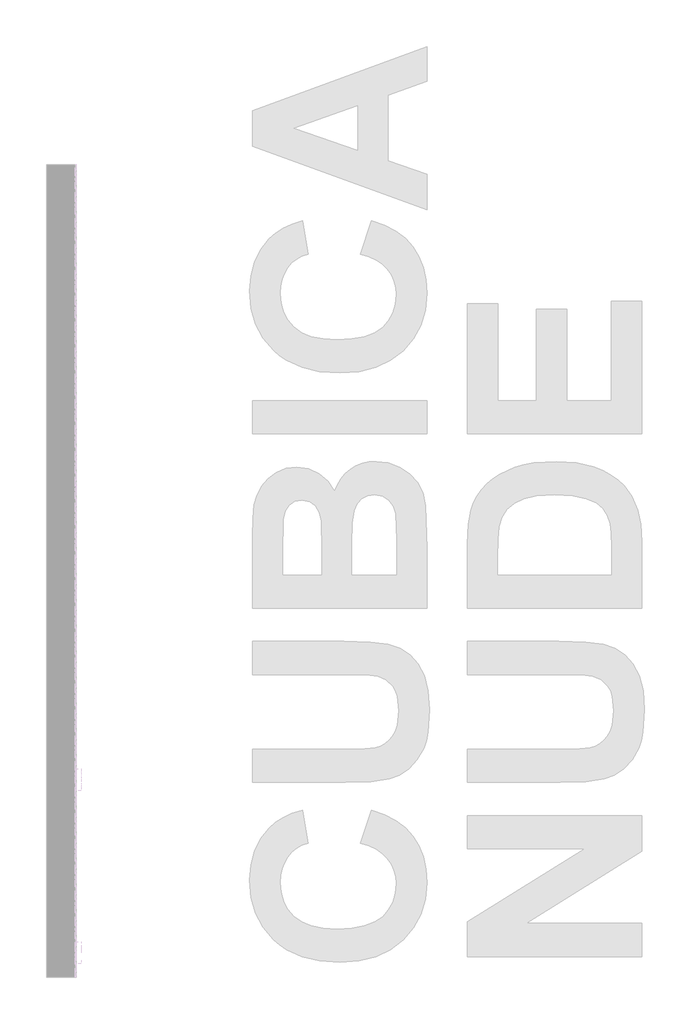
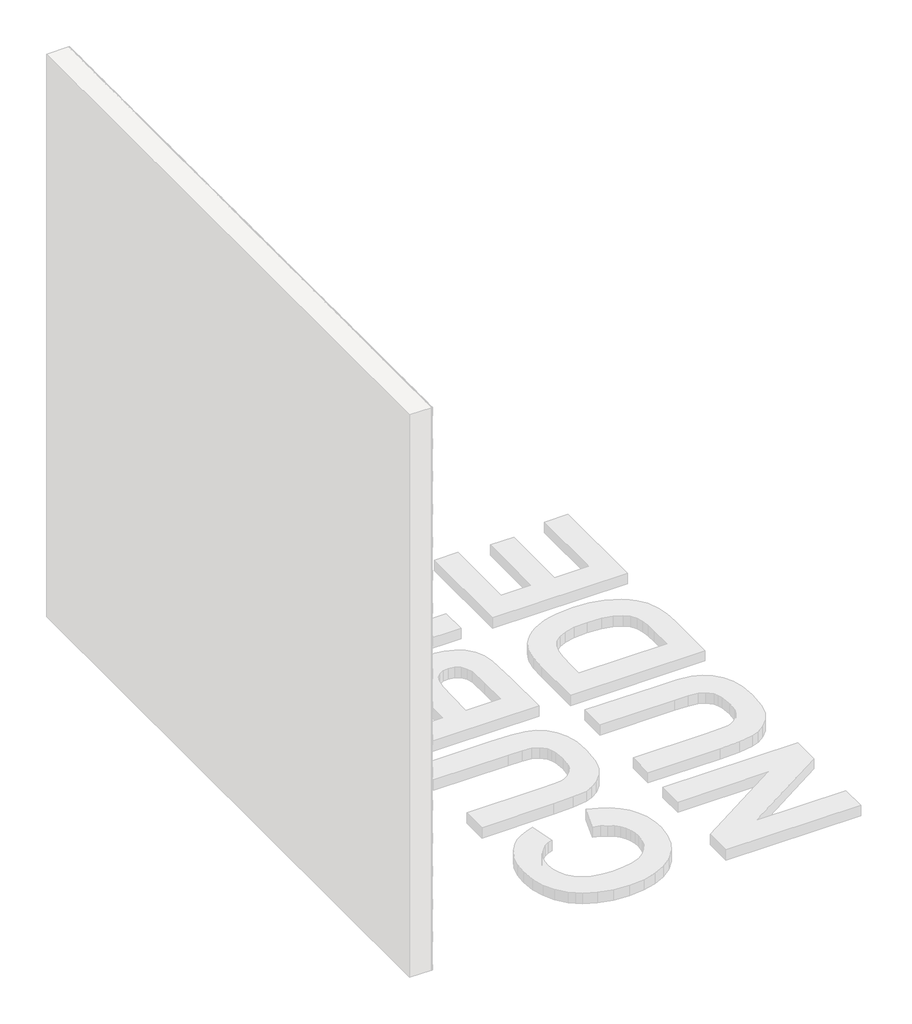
# One storey, part 69 of 121: 145 proxies.
"""IFC4 building model written with IfcOpenShell, lengths in millimetres."""

from ifc_helpers import new_model, si_unit, origin, place, context, project, spatial, transform, mapped, element, save
from components import generic_models_b2b2c5c1, generic_models_9bf73f6f, generic_models_5d175859

model = new_model("IFC4")

# Units and contexts
model_context = context("Model", 3, world=origin())
ifc_project = project(units=[si_unit("LENGTHUNIT", "METRE", prefix="MILLI")], contexts=[model_context])

# Site, building, storey
site = spatial("IfcSite", under=ifc_project)
building = spatial("IfcBuilding", under=site)
storey = spatial("IfcBuildingStorey", under=building, Name="PORTOBELLO - SHOWROOM", Elevation=0.0)

# Proxies
placement = place(None, origin())
generic_models_shape = generic_models_b2b2c5c1(model_context)
element("IfcBuildingElementProxy", 1, Name="PBSHOP - CUBICA NUDE 4,8X8,3 : CUBICA NUDE - POSIÇÃO 01", ObjectType="PBSHOP - CUBICA NUDE 4,8X8,3 : CUBICA NUDE - POSIÇÃO 01", at=placement, inside=storey, context=model_context, shape_type="MappedRepresentation", body=[
    mapped(generic_models_shape, transform((150369.5341846, 8940.0472844, 1775.984211), x_axis=(0.0, 1.0, 0.0), y_axis=(0.0, 0.0, 1.0), z_axis=(1.0, 0.0, 0.0))),
])
element("IfcBuildingElementProxy", 2, Name="PBSHOP - CUBICA NUDE 4,8X8,3 : CUBICA NUDE - POSIÇÃO 01", ObjectType="PBSHOP - CUBICA NUDE 4,8X8,3 : CUBICA NUDE - POSIÇÃO 01", at=placement, inside=storey, context=model_context, shape_type="MappedRepresentation", body=[
    mapped(generic_models_shape, transform((150369.5341846, 8077.0742266, 1854.9188494), x_axis=(0.0, 1.0, 0.0), y_axis=(0.0, 0.0, 1.0), z_axis=(1.0, 0.0, 0.0))),
])
element("IfcBuildingElementProxy", 3, Name="PBSHOP - CUBICA NUDE 4,8X8,3 : CUBICA NUDE - POSIÇÃO 01", ObjectType="PBSHOP - CUBICA NUDE 4,8X8,3 : CUBICA NUDE - POSIÇÃO 01", at=placement, inside=storey, context=model_context, shape_type="MappedRepresentation", body=[
    mapped(generic_models_shape, transform((150369.5341846, 8167.9134958, 1854.9188494), x_axis=(0.0, 1.0, 0.0), y_axis=(0.0, 0.0, 1.0), z_axis=(1.0, 0.0, 0.0))),
])
element("IfcBuildingElementProxy", 4, Name="PBSHOP - CUBICA NUDE 4,8X8,3 : CUBICA NUDE - POSIÇÃO 01", ObjectType="PBSHOP - CUBICA NUDE 4,8X8,3 : CUBICA NUDE - POSIÇÃO 01", at=placement, inside=storey, context=model_context, shape_type="MappedRepresentation", body=[
    mapped(generic_models_shape, transform((150369.5341846, 8258.7527651, 1854.9188494), x_axis=(0.0, 1.0, 0.0), y_axis=(0.0, 0.0, 1.0), z_axis=(1.0, 0.0, 0.0))),
])
element("IfcBuildingElementProxy", 5, Name="PBSHOP - CUBICA NUDE 4,8X8,3 : CUBICA NUDE - POSIÇÃO 01", ObjectType="PBSHOP - CUBICA NUDE 4,8X8,3 : CUBICA NUDE - POSIÇÃO 01", at=placement, inside=storey, context=model_context, shape_type="MappedRepresentation", body=[
    mapped(generic_models_shape, transform((150369.5341846, 8349.5920343, 1854.9188494), x_axis=(0.0, 1.0, 0.0), y_axis=(0.0, 0.0, 1.0), z_axis=(1.0, 0.0, 0.0))),
])
element("IfcBuildingElementProxy", 6, Name="PBSHOP - CUBICA NUDE 4,8X8,3 : CUBICA NUDE - POSIÇÃO 01", ObjectType="PBSHOP - CUBICA NUDE 4,8X8,3 : CUBICA NUDE - POSIÇÃO 01", at=placement, inside=storey, context=model_context, shape_type="MappedRepresentation", body=[
    mapped(generic_models_shape, transform((150369.5341846, 8440.4313036, 1854.9188494), x_axis=(0.0, 1.0, 0.0), y_axis=(0.0, 0.0, 1.0), z_axis=(1.0, 0.0, 0.0))),
])
element("IfcBuildingElementProxy", 7, Name="PBSHOP - CUBICA NUDE 4,8X8,3 : CUBICA NUDE - POSIÇÃO 01", ObjectType="PBSHOP - CUBICA NUDE 4,8X8,3 : CUBICA NUDE - POSIÇÃO 01", at=placement, inside=storey, context=model_context, shape_type="MappedRepresentation", body=[
    mapped(generic_models_shape, transform((150369.5341846, 8531.2705728, 1854.9188494), x_axis=(0.0, 1.0, 0.0), y_axis=(0.0, 0.0, 1.0), z_axis=(1.0, 0.0, 0.0))),
])
element("IfcBuildingElementProxy", 8, Name="PBSHOP - CUBICA NUDE 4,8X8,3 : CUBICA NUDE - POSIÇÃO 01", ObjectType="PBSHOP - CUBICA NUDE 4,8X8,3 : CUBICA NUDE - POSIÇÃO 01", at=placement, inside=storey, context=model_context, shape_type="MappedRepresentation", body=[
    mapped(generic_models_shape, transform((150369.5341846, 8622.109842, 1854.9188494), x_axis=(0.0, 1.0, 0.0), y_axis=(0.0, 0.0, 1.0), z_axis=(1.0, 0.0, 0.0))),
])
element("IfcBuildingElementProxy", 9, Name="PBSHOP - CUBICA NUDE 4,8X8,3 : CUBICA NUDE - POSIÇÃO 01", ObjectType="PBSHOP - CUBICA NUDE 4,8X8,3 : CUBICA NUDE - POSIÇÃO 01", at=placement, inside=storey, context=model_context, shape_type="MappedRepresentation", body=[
    mapped(generic_models_shape, transform((150369.5341846, 8712.9491113, 1854.9188494), x_axis=(0.0, 1.0, 0.0), y_axis=(0.0, 0.0, 1.0), z_axis=(1.0, 0.0, 0.0))),
])
element("IfcBuildingElementProxy", 10, Name="PBSHOP - CUBICA NUDE 4,8X8,3 : CUBICA NUDE - POSIÇÃO 01", ObjectType="PBSHOP - CUBICA NUDE 4,8X8,3 : CUBICA NUDE - POSIÇÃO 01", at=placement, inside=storey, context=model_context, shape_type="MappedRepresentation", body=[
    mapped(generic_models_shape, transform((150369.5341846, 8803.7883805, 1854.9188494), x_axis=(0.0, 1.0, 0.0), y_axis=(0.0, 0.0, 1.0), z_axis=(1.0, 0.0, 0.0))),
])
element("IfcBuildingElementProxy", 11, Name="PBSHOP - CUBICA NUDE 4,8X8,3 : CUBICA NUDE - POSIÇÃO 01", ObjectType="PBSHOP - CUBICA NUDE 4,8X8,3 : CUBICA NUDE - POSIÇÃO 01", at=placement, inside=storey, context=model_context, shape_type="MappedRepresentation", body=[
    mapped(generic_models_shape, transform((150369.5341846, 8894.6276498, 1854.9188494), x_axis=(0.0, 1.0, 0.0), y_axis=(0.0, 0.0, 1.0), z_axis=(1.0, 0.0, 0.0))),
])
element("IfcBuildingElementProxy", 12, Name="PBSHOP - CUBICA NUDE 4,8X8,3 : CUBICA NUDE - POSIÇÃO 01", ObjectType="PBSHOP - CUBICA NUDE 4,8X8,3 : CUBICA NUDE - POSIÇÃO 01", at=placement, inside=storey, context=model_context, shape_type="MappedRepresentation", body=[
    mapped(generic_models_shape, transform((150369.5341846, 8985.466919, 1854.9188494), x_axis=(0.0, 1.0, 0.0), y_axis=(0.0, 0.0, 1.0), z_axis=(1.0, 0.0, 0.0))),
])
element("IfcBuildingElementProxy", 13, Name="PBSHOP - CUBICA NUDE 4,8X8,3 : CUBICA NUDE - POSIÇÃO 01", ObjectType="PBSHOP - CUBICA NUDE 4,8X8,3 : CUBICA NUDE - POSIÇÃO 01", at=placement, inside=storey, context=model_context, shape_type="MappedRepresentation", body=[
    mapped(generic_models_shape, transform((150369.5341846, 8031.654592, 1933.8534878), x_axis=(0.0, 1.0, 0.0), y_axis=(0.0, 0.0, 1.0), z_axis=(1.0, 0.0, 0.0))),
])
element("IfcBuildingElementProxy", 14, Name="PBSHOP - CUBICA NUDE 4,8X8,3 : CUBICA NUDE - POSIÇÃO 01", ObjectType="PBSHOP - CUBICA NUDE 4,8X8,3 : CUBICA NUDE - POSIÇÃO 01", at=placement, inside=storey, context=model_context, shape_type="MappedRepresentation", body=[
    mapped(generic_models_shape, transform((150369.5341846, 8122.4938612, 1933.8534878), x_axis=(0.0, 1.0, 0.0), y_axis=(0.0, 0.0, 1.0), z_axis=(1.0, 0.0, 0.0))),
])
element("IfcBuildingElementProxy", 15, Name="PBSHOP - CUBICA NUDE 4,8X8,3 : CUBICA NUDE - POSIÇÃO 01", ObjectType="PBSHOP - CUBICA NUDE 4,8X8,3 : CUBICA NUDE - POSIÇÃO 01", at=placement, inside=storey, context=model_context, shape_type="MappedRepresentation", body=[
    mapped(generic_models_shape, transform((150369.5341846, 8213.3331304, 1933.8534878), x_axis=(0.0, 1.0, 0.0), y_axis=(0.0, 0.0, 1.0), z_axis=(1.0, 0.0, 0.0))),
])
element("IfcBuildingElementProxy", 16, Name="PBSHOP - CUBICA NUDE 4,8X8,3 : CUBICA NUDE - POSIÇÃO 01", ObjectType="PBSHOP - CUBICA NUDE 4,8X8,3 : CUBICA NUDE - POSIÇÃO 01", at=placement, inside=storey, context=model_context, shape_type="MappedRepresentation", body=[
    mapped(generic_models_shape, transform((150369.5341846, 8304.1723997, 1933.8534878), x_axis=(0.0, 1.0, 0.0), y_axis=(0.0, 0.0, 1.0), z_axis=(1.0, 0.0, 0.0))),
])
element("IfcBuildingElementProxy", 17, Name="PBSHOP - CUBICA NUDE 4,8X8,3 : CUBICA NUDE - POSIÇÃO 01", ObjectType="PBSHOP - CUBICA NUDE 4,8X8,3 : CUBICA NUDE - POSIÇÃO 01", at=placement, inside=storey, context=model_context, shape_type="MappedRepresentation", body=[
    mapped(generic_models_shape, transform((150369.5341846, 8395.0116689, 1933.8534878), x_axis=(0.0, 1.0, 0.0), y_axis=(0.0, 0.0, 1.0), z_axis=(1.0, 0.0, 0.0))),
])
element("IfcBuildingElementProxy", 18, Name="PBSHOP - CUBICA NUDE 4,8X8,3 : CUBICA NUDE - POSIÇÃO 01", ObjectType="PBSHOP - CUBICA NUDE 4,8X8,3 : CUBICA NUDE - POSIÇÃO 01", at=placement, inside=storey, context=model_context, shape_type="MappedRepresentation", body=[
    mapped(generic_models_shape, transform((150369.5341846, 8485.8509382, 1933.8534878), x_axis=(0.0, 1.0, 0.0), y_axis=(0.0, 0.0, 1.0), z_axis=(1.0, 0.0, 0.0))),
])
element("IfcBuildingElementProxy", 19, Name="PBSHOP - CUBICA NUDE 4,8X8,3 : CUBICA NUDE - POSIÇÃO 01", ObjectType="PBSHOP - CUBICA NUDE 4,8X8,3 : CUBICA NUDE - POSIÇÃO 01", at=placement, inside=storey, context=model_context, shape_type="MappedRepresentation", body=[
    mapped(generic_models_shape, transform((150369.5341846, 8576.6902074, 1933.8534878), x_axis=(0.0, 1.0, 0.0), y_axis=(0.0, 0.0, 1.0), z_axis=(1.0, 0.0, 0.0))),
])
element("IfcBuildingElementProxy", 20, Name="PBSHOP - CUBICA NUDE 4,8X8,3 : CUBICA NUDE - POSIÇÃO 01", ObjectType="PBSHOP - CUBICA NUDE 4,8X8,3 : CUBICA NUDE - POSIÇÃO 01", at=placement, inside=storey, context=model_context, shape_type="MappedRepresentation", body=[
    mapped(generic_models_shape, transform((150369.5341846, 8667.5294767, 1933.8534878), x_axis=(0.0, 1.0, 0.0), y_axis=(0.0, 0.0, 1.0), z_axis=(1.0, 0.0, 0.0))),
])
element("IfcBuildingElementProxy", 21, Name="PBSHOP - CUBICA NUDE 4,8X8,3 : CUBICA NUDE - POSIÇÃO 01", ObjectType="PBSHOP - CUBICA NUDE 4,8X8,3 : CUBICA NUDE - POSIÇÃO 01", at=placement, inside=storey, context=model_context, shape_type="MappedRepresentation", body=[
    mapped(generic_models_shape, transform((150369.5341846, 8758.3687459, 1933.8534878), x_axis=(0.0, 1.0, 0.0), y_axis=(0.0, 0.0, 1.0), z_axis=(1.0, 0.0, 0.0))),
])
element("IfcBuildingElementProxy", 22, Name="PBSHOP - CUBICA NUDE 4,8X8,3 : CUBICA NUDE - POSIÇÃO 01", ObjectType="PBSHOP - CUBICA NUDE 4,8X8,3 : CUBICA NUDE - POSIÇÃO 01", at=placement, inside=storey, context=model_context, shape_type="MappedRepresentation", body=[
    mapped(generic_models_shape, transform((150369.5341846, 8849.2080152, 1933.8534878), x_axis=(0.0, 1.0, 0.0), y_axis=(0.0, 0.0, 1.0), z_axis=(1.0, 0.0, 0.0))),
])
element("IfcBuildingElementProxy", 23, Name="PBSHOP - CUBICA NUDE 4,8X8,3 : CUBICA NUDE - POSIÇÃO 01", ObjectType="PBSHOP - CUBICA NUDE 4,8X8,3 : CUBICA NUDE - POSIÇÃO 01", at=placement, inside=storey, context=model_context, shape_type="MappedRepresentation", body=[
    mapped(generic_models_shape, transform((150369.5341846, 8940.0472844, 1933.8534878), x_axis=(0.0, 1.0, 0.0), y_axis=(0.0, 0.0, 1.0), z_axis=(1.0, 0.0, 0.0))),
])
element("IfcBuildingElementProxy", 24, Name="PBSHOP - CUBICA NUDE 4,8X8,3 : CUBICA NUDE - POSIÇÃO 01", ObjectType="PBSHOP - CUBICA NUDE 4,8X8,3 : CUBICA NUDE - POSIÇÃO 01", at=placement, inside=storey, context=model_context, shape_type="MappedRepresentation", body=[
    mapped(generic_models_shape, transform((150369.5341846, 8077.0742266, 2012.7881262), x_axis=(0.0, 1.0, 0.0), y_axis=(0.0, 0.0, 1.0), z_axis=(1.0, 0.0, 0.0))),
])
element("IfcBuildingElementProxy", 25, Name="PBSHOP - CUBICA NUDE 4,8X8,3 : CUBICA NUDE - POSIÇÃO 01", ObjectType="PBSHOP - CUBICA NUDE 4,8X8,3 : CUBICA NUDE - POSIÇÃO 01", at=placement, inside=storey, context=model_context, shape_type="MappedRepresentation", body=[
    mapped(generic_models_shape, transform((150369.5341846, 8167.9134958, 2012.7881262), x_axis=(0.0, 1.0, 0.0), y_axis=(0.0, 0.0, 1.0), z_axis=(1.0, 0.0, 0.0))),
])
element("IfcBuildingElementProxy", 26, Name="PBSHOP - CUBICA NUDE 4,8X8,3 : CUBICA NUDE - POSIÇÃO 01", ObjectType="PBSHOP - CUBICA NUDE 4,8X8,3 : CUBICA NUDE - POSIÇÃO 01", at=placement, inside=storey, context=model_context, shape_type="MappedRepresentation", body=[
    mapped(generic_models_shape, transform((150369.5341846, 8258.7527651, 2012.7881262), x_axis=(0.0, 1.0, 0.0), y_axis=(0.0, 0.0, 1.0), z_axis=(1.0, 0.0, 0.0))),
])
element("IfcBuildingElementProxy", 27, Name="PBSHOP - CUBICA NUDE 4,8X8,3 : CUBICA NUDE - POSIÇÃO 01", ObjectType="PBSHOP - CUBICA NUDE 4,8X8,3 : CUBICA NUDE - POSIÇÃO 01", at=placement, inside=storey, context=model_context, shape_type="MappedRepresentation", body=[
    mapped(generic_models_shape, transform((150369.5341846, 8349.5920343, 2012.7881262), x_axis=(0.0, 1.0, 0.0), y_axis=(0.0, 0.0, 1.0), z_axis=(1.0, 0.0, 0.0))),
])
element("IfcBuildingElementProxy", 28, Name="PBSHOP - CUBICA NUDE 4,8X8,3 : CUBICA NUDE - POSIÇÃO 01", ObjectType="PBSHOP - CUBICA NUDE 4,8X8,3 : CUBICA NUDE - POSIÇÃO 01", at=placement, inside=storey, context=model_context, shape_type="MappedRepresentation", body=[
    mapped(generic_models_shape, transform((150369.5341846, 8440.4313036, 2012.7881262), x_axis=(0.0, 1.0, 0.0), y_axis=(0.0, 0.0, 1.0), z_axis=(1.0, 0.0, 0.0))),
])
element("IfcBuildingElementProxy", 29, Name="PBSHOP - CUBICA NUDE 4,8X8,3 : CUBICA NUDE - POSIÇÃO 01", ObjectType="PBSHOP - CUBICA NUDE 4,8X8,3 : CUBICA NUDE - POSIÇÃO 01", at=placement, inside=storey, context=model_context, shape_type="MappedRepresentation", body=[
    mapped(generic_models_shape, transform((150369.5341846, 8531.2705728, 2012.7881262), x_axis=(0.0, 1.0, 0.0), y_axis=(0.0, 0.0, 1.0), z_axis=(1.0, 0.0, 0.0))),
])
element("IfcBuildingElementProxy", 30, Name="PBSHOP - CUBICA NUDE 4,8X8,3 : CUBICA NUDE - POSIÇÃO 01", ObjectType="PBSHOP - CUBICA NUDE 4,8X8,3 : CUBICA NUDE - POSIÇÃO 01", at=placement, inside=storey, context=model_context, shape_type="MappedRepresentation", body=[
    mapped(generic_models_shape, transform((150369.5341846, 8622.109842, 2012.7881262), x_axis=(0.0, 1.0, 0.0), y_axis=(0.0, 0.0, 1.0), z_axis=(1.0, 0.0, 0.0))),
])
element("IfcBuildingElementProxy", 31, Name="PBSHOP - CUBICA NUDE 4,8X8,3 : CUBICA NUDE - POSIÇÃO 01", ObjectType="PBSHOP - CUBICA NUDE 4,8X8,3 : CUBICA NUDE - POSIÇÃO 01", at=placement, inside=storey, context=model_context, shape_type="MappedRepresentation", body=[
    mapped(generic_models_shape, transform((150369.5341846, 8712.9491113, 2012.7881262), x_axis=(0.0, 1.0, 0.0), y_axis=(0.0, 0.0, 1.0), z_axis=(1.0, 0.0, 0.0))),
])
element("IfcBuildingElementProxy", 32, Name="PBSHOP - CUBICA NUDE 4,8X8,3 : CUBICA NUDE - POSIÇÃO 01", ObjectType="PBSHOP - CUBICA NUDE 4,8X8,3 : CUBICA NUDE - POSIÇÃO 01", at=placement, inside=storey, context=model_context, shape_type="MappedRepresentation", body=[
    mapped(generic_models_shape, transform((150369.5341846, 8803.7883805, 2012.7881262), x_axis=(0.0, 1.0, 0.0), y_axis=(0.0, 0.0, 1.0), z_axis=(1.0, 0.0, 0.0))),
])
element("IfcBuildingElementProxy", 33, Name="PBSHOP - CUBICA NUDE 4,8X8,3 : CUBICA NUDE - POSIÇÃO 01", ObjectType="PBSHOP - CUBICA NUDE 4,8X8,3 : CUBICA NUDE - POSIÇÃO 01", at=placement, inside=storey, context=model_context, shape_type="MappedRepresentation", body=[
    mapped(generic_models_shape, transform((150369.5341846, 8894.6276498, 2012.7881262), x_axis=(0.0, 1.0, 0.0), y_axis=(0.0, 0.0, 1.0), z_axis=(1.0, 0.0, 0.0))),
])
element("IfcBuildingElementProxy", 34, Name="PBSHOP - CUBICA NUDE 4,8X8,3 : CUBICA NUDE - POSIÇÃO 01", ObjectType="PBSHOP - CUBICA NUDE 4,8X8,3 : CUBICA NUDE - POSIÇÃO 01", at=placement, inside=storey, context=model_context, shape_type="MappedRepresentation", body=[
    mapped(generic_models_shape, transform((150369.5341846, 8985.466919, 2012.7881262), x_axis=(0.0, 1.0, 0.0), y_axis=(0.0, 0.0, 1.0), z_axis=(1.0, 0.0, 0.0))),
])
element("IfcBuildingElementProxy", 35, Name="PBSHOP - CUBICA NUDE 4,8X8,3 : CUBICA NUDE - POSIÇÃO 01", ObjectType="PBSHOP - CUBICA NUDE 4,8X8,3 : CUBICA NUDE - POSIÇÃO 01", at=placement, inside=storey, context=model_context, shape_type="MappedRepresentation", body=[
    mapped(generic_models_shape, transform((150369.5341846, 8031.654592, 2091.7227645), x_axis=(0.0, 1.0, 0.0), y_axis=(0.0, 0.0, 1.0), z_axis=(1.0, 0.0, 0.0))),
])
element("IfcBuildingElementProxy", 36, Name="PBSHOP - CUBICA NUDE 4,8X8,3 : CUBICA NUDE - POSIÇÃO 01", ObjectType="PBSHOP - CUBICA NUDE 4,8X8,3 : CUBICA NUDE - POSIÇÃO 01", at=placement, inside=storey, context=model_context, shape_type="MappedRepresentation", body=[
    mapped(generic_models_shape, transform((150369.5341846, 8122.4938612, 2091.7227645), x_axis=(0.0, 1.0, 0.0), y_axis=(0.0, 0.0, 1.0), z_axis=(1.0, 0.0, 0.0))),
])
element("IfcBuildingElementProxy", 37, Name="PBSHOP - CUBICA NUDE 4,8X8,3 : CUBICA NUDE - POSIÇÃO 01", ObjectType="PBSHOP - CUBICA NUDE 4,8X8,3 : CUBICA NUDE - POSIÇÃO 01", at=placement, inside=storey, context=model_context, shape_type="MappedRepresentation", body=[
    mapped(generic_models_shape, transform((150369.5341846, 8213.3331304, 2091.7227645), x_axis=(0.0, 1.0, 0.0), y_axis=(0.0, 0.0, 1.0), z_axis=(1.0, 0.0, 0.0))),
])
element("IfcBuildingElementProxy", 38, Name="PBSHOP - CUBICA NUDE 4,8X8,3 : CUBICA NUDE - POSIÇÃO 01", ObjectType="PBSHOP - CUBICA NUDE 4,8X8,3 : CUBICA NUDE - POSIÇÃO 01", at=placement, inside=storey, context=model_context, shape_type="MappedRepresentation", body=[
    mapped(generic_models_shape, transform((150369.5341846, 8304.1723997, 2091.7227645), x_axis=(0.0, 1.0, 0.0), y_axis=(0.0, 0.0, 1.0), z_axis=(1.0, 0.0, 0.0))),
])
element("IfcBuildingElementProxy", 39, Name="PBSHOP - CUBICA NUDE 4,8X8,3 : CUBICA NUDE - POSIÇÃO 01", ObjectType="PBSHOP - CUBICA NUDE 4,8X8,3 : CUBICA NUDE - POSIÇÃO 01", at=placement, inside=storey, context=model_context, shape_type="MappedRepresentation", body=[
    mapped(generic_models_shape, transform((150369.5341846, 8395.0116689, 2091.7227645), x_axis=(0.0, 1.0, 0.0), y_axis=(0.0, 0.0, 1.0), z_axis=(1.0, 0.0, 0.0))),
])
element("IfcBuildingElementProxy", 40, Name="PBSHOP - CUBICA NUDE 4,8X8,3 : CUBICA NUDE - POSIÇÃO 01", ObjectType="PBSHOP - CUBICA NUDE 4,8X8,3 : CUBICA NUDE - POSIÇÃO 01", at=placement, inside=storey, context=model_context, shape_type="MappedRepresentation", body=[
    mapped(generic_models_shape, transform((150369.5341846, 8485.8509382, 2091.7227645), x_axis=(0.0, 1.0, 0.0), y_axis=(0.0, 0.0, 1.0), z_axis=(1.0, 0.0, 0.0))),
])
element("IfcBuildingElementProxy", 41, Name="PBSHOP - CUBICA NUDE 4,8X8,3 : CUBICA NUDE - POSIÇÃO 01", ObjectType="PBSHOP - CUBICA NUDE 4,8X8,3 : CUBICA NUDE - POSIÇÃO 01", at=placement, inside=storey, context=model_context, shape_type="MappedRepresentation", body=[
    mapped(generic_models_shape, transform((150369.5341846, 8576.6902074, 2091.7227645), x_axis=(0.0, 1.0, 0.0), y_axis=(0.0, 0.0, 1.0), z_axis=(1.0, 0.0, 0.0))),
])
element("IfcBuildingElementProxy", 42, Name="PBSHOP - CUBICA NUDE 4,8X8,3 : CUBICA NUDE - POSIÇÃO 01", ObjectType="PBSHOP - CUBICA NUDE 4,8X8,3 : CUBICA NUDE - POSIÇÃO 01", at=placement, inside=storey, context=model_context, shape_type="MappedRepresentation", body=[
    mapped(generic_models_shape, transform((150369.5341846, 8667.5294767, 2091.7227645), x_axis=(0.0, 1.0, 0.0), y_axis=(0.0, 0.0, 1.0), z_axis=(1.0, 0.0, 0.0))),
])
element("IfcBuildingElementProxy", 43, Name="PBSHOP - CUBICA NUDE 4,8X8,3 : CUBICA NUDE - POSIÇÃO 01", ObjectType="PBSHOP - CUBICA NUDE 4,8X8,3 : CUBICA NUDE - POSIÇÃO 01", at=placement, inside=storey, context=model_context, shape_type="MappedRepresentation", body=[
    mapped(generic_models_shape, transform((150369.5341846, 8758.3687459, 2091.7227645), x_axis=(0.0, 1.0, 0.0), y_axis=(0.0, 0.0, 1.0), z_axis=(1.0, 0.0, 0.0))),
])
element("IfcBuildingElementProxy", 44, Name="PBSHOP - CUBICA NUDE 4,8X8,3 : CUBICA NUDE - POSIÇÃO 01", ObjectType="PBSHOP - CUBICA NUDE 4,8X8,3 : CUBICA NUDE - POSIÇÃO 01", at=placement, inside=storey, context=model_context, shape_type="MappedRepresentation", body=[
    mapped(generic_models_shape, transform((150369.5341846, 8849.2080152, 2091.7227645), x_axis=(0.0, 1.0, 0.0), y_axis=(0.0, 0.0, 1.0), z_axis=(1.0, 0.0, 0.0))),
])
element("IfcBuildingElementProxy", 45, Name="PBSHOP - CUBICA NUDE 4,8X8,3 : CUBICA NUDE - POSIÇÃO 01", ObjectType="PBSHOP - CUBICA NUDE 4,8X8,3 : CUBICA NUDE - POSIÇÃO 01", at=placement, inside=storey, context=model_context, shape_type="MappedRepresentation", body=[
    mapped(generic_models_shape, transform((150369.5341846, 8940.0472844, 2091.7227645), x_axis=(0.0, 1.0, 0.0), y_axis=(0.0, 0.0, 1.0), z_axis=(1.0, 0.0, 0.0))),
])
generic_models_2_shape = generic_models_9bf73f6f(model_context)
element("IfcBuildingElementProxy", 46, Name="PBSHOP - CUBICA NUDE 4,8X8,3 : CUBICA NUDE - POSIÇÃO 03", ObjectType="PBSHOP - CUBICA NUDE 4,8X8,3 : CUBICA NUDE - POSIÇÃO 03", at=placement, inside=storey, context=model_context, shape_type="MappedRepresentation", body=[
    mapped(generic_models_2_shape, transform((150369.5341846, 8008.9469338, 1736.4756814), x_axis=(0.0, 1.0, 0.0), y_axis=(0.0, 0.0, 1.0), z_axis=(1.0, 0.0, 0.0))),
])
element("IfcBuildingElementProxy", 47, Name="PBSHOP - CUBICA NUDE 4,8X8,3 : CUBICA NUDE - POSIÇÃO 03", ObjectType="PBSHOP - CUBICA NUDE 4,8X8,3 : CUBICA NUDE - POSIÇÃO 03", at=placement, inside=storey, context=model_context, shape_type="MappedRepresentation", body=[
    mapped(generic_models_2_shape, transform((150369.5341846, 8099.7862031, 1736.4756814), x_axis=(0.0, 1.0, 0.0), y_axis=(0.0, 0.0, 1.0), z_axis=(1.0, 0.0, 0.0))),
])
element("IfcBuildingElementProxy", 48, Name="PBSHOP - CUBICA NUDE 4,8X8,3 : CUBICA NUDE - POSIÇÃO 03", ObjectType="PBSHOP - CUBICA NUDE 4,8X8,3 : CUBICA NUDE - POSIÇÃO 03", at=placement, inside=storey, context=model_context, shape_type="MappedRepresentation", body=[
    mapped(generic_models_2_shape, transform((150369.5341846, 8190.6254723, 1736.4756814), x_axis=(0.0, 1.0, 0.0), y_axis=(0.0, 0.0, 1.0), z_axis=(1.0, 0.0, 0.0))),
])
element("IfcBuildingElementProxy", 49, Name="PBSHOP - CUBICA NUDE 4,8X8,3 : CUBICA NUDE - POSIÇÃO 03", ObjectType="PBSHOP - CUBICA NUDE 4,8X8,3 : CUBICA NUDE - POSIÇÃO 03", at=placement, inside=storey, context=model_context, shape_type="MappedRepresentation", body=[
    mapped(generic_models_2_shape, transform((150369.5341846, 8281.4647415, 1736.4756814), x_axis=(0.0, 1.0, 0.0), y_axis=(0.0, 0.0, 1.0), z_axis=(1.0, 0.0, 0.0))),
])
element("IfcBuildingElementProxy", 50, Name="PBSHOP - CUBICA NUDE 4,8X8,3 : CUBICA NUDE - POSIÇÃO 03", ObjectType="PBSHOP - CUBICA NUDE 4,8X8,3 : CUBICA NUDE - POSIÇÃO 03", at=placement, inside=storey, context=model_context, shape_type="MappedRepresentation", body=[
    mapped(generic_models_2_shape, transform((150369.5341846, 8372.3040108, 1736.4756814), x_axis=(0.0, 1.0, 0.0), y_axis=(0.0, 0.0, 1.0), z_axis=(1.0, 0.0, 0.0))),
])
element("IfcBuildingElementProxy", 51, Name="PBSHOP - CUBICA NUDE 4,8X8,3 : CUBICA NUDE - POSIÇÃO 03", ObjectType="PBSHOP - CUBICA NUDE 4,8X8,3 : CUBICA NUDE - POSIÇÃO 03", at=placement, inside=storey, context=model_context, shape_type="MappedRepresentation", body=[
    mapped(generic_models_2_shape, transform((150369.5341846, 8463.14328, 1736.4756814), x_axis=(0.0, 1.0, 0.0), y_axis=(0.0, 0.0, 1.0), z_axis=(1.0, 0.0, 0.0))),
])
element("IfcBuildingElementProxy", 52, Name="PBSHOP - CUBICA NUDE 4,8X8,3 : CUBICA NUDE - POSIÇÃO 03", ObjectType="PBSHOP - CUBICA NUDE 4,8X8,3 : CUBICA NUDE - POSIÇÃO 03", at=placement, inside=storey, context=model_context, shape_type="MappedRepresentation", body=[
    mapped(generic_models_2_shape, transform((150369.5341846, 8553.9825493, 1736.4756814), x_axis=(0.0, 1.0, 0.0), y_axis=(0.0, 0.0, 1.0), z_axis=(1.0, 0.0, 0.0))),
])
element("IfcBuildingElementProxy", 53, Name="PBSHOP - CUBICA NUDE 4,8X8,3 : CUBICA NUDE - POSIÇÃO 03", ObjectType="PBSHOP - CUBICA NUDE 4,8X8,3 : CUBICA NUDE - POSIÇÃO 03", at=placement, inside=storey, context=model_context, shape_type="MappedRepresentation", body=[
    mapped(generic_models_2_shape, transform((150369.5341846, 8644.8218185, 1736.4756814), x_axis=(0.0, 1.0, 0.0), y_axis=(0.0, 0.0, 1.0), z_axis=(1.0, 0.0, 0.0))),
])
element("IfcBuildingElementProxy", 54, Name="PBSHOP - CUBICA NUDE 4,8X8,3 : CUBICA NUDE - POSIÇÃO 03", ObjectType="PBSHOP - CUBICA NUDE 4,8X8,3 : CUBICA NUDE - POSIÇÃO 03", at=placement, inside=storey, context=model_context, shape_type="MappedRepresentation", body=[
    mapped(generic_models_2_shape, transform((150369.5341846, 8735.6610878, 1736.4756814), x_axis=(0.0, 1.0, 0.0), y_axis=(0.0, 0.0, 1.0), z_axis=(1.0, 0.0, 0.0))),
])
element("IfcBuildingElementProxy", 55, Name="PBSHOP - CUBICA NUDE 4,8X8,3 : CUBICA NUDE - POSIÇÃO 03", ObjectType="PBSHOP - CUBICA NUDE 4,8X8,3 : CUBICA NUDE - POSIÇÃO 03", at=placement, inside=storey, context=model_context, shape_type="MappedRepresentation", body=[
    mapped(generic_models_2_shape, transform((150369.5341846, 8826.500357, 1736.4756814), x_axis=(0.0, 1.0, 0.0), y_axis=(0.0, 0.0, 1.0), z_axis=(1.0, 0.0, 0.0))),
])
element("IfcBuildingElementProxy", 56, Name="PBSHOP - CUBICA NUDE 4,8X8,3 : CUBICA NUDE - POSIÇÃO 03", ObjectType="PBSHOP - CUBICA NUDE 4,8X8,3 : CUBICA NUDE - POSIÇÃO 03", at=placement, inside=storey, context=model_context, shape_type="MappedRepresentation", body=[
    mapped(generic_models_2_shape, transform((150369.5341846, 8917.3396263, 1736.4756814), x_axis=(0.0, 1.0, 0.0), y_axis=(0.0, 0.0, 1.0), z_axis=(1.0, 0.0, 0.0))),
])
element("IfcBuildingElementProxy", 57, Name="PBSHOP - CUBICA NUDE 4,8X8,3 : CUBICA NUDE - POSIÇÃO 03", ObjectType="PBSHOP - CUBICA NUDE 4,8X8,3 : CUBICA NUDE - POSIÇÃO 03", at=placement, inside=storey, context=model_context, shape_type="MappedRepresentation", body=[
    mapped(generic_models_2_shape, transform((150369.5341846, 8054.3665684, 1815.4103198), x_axis=(0.0, 1.0, 0.0), y_axis=(0.0, 0.0, 1.0), z_axis=(1.0, 0.0, 0.0))),
])
element("IfcBuildingElementProxy", 58, Name="PBSHOP - CUBICA NUDE 4,8X8,3 : CUBICA NUDE - POSIÇÃO 03", ObjectType="PBSHOP - CUBICA NUDE 4,8X8,3 : CUBICA NUDE - POSIÇÃO 03", at=placement, inside=storey, context=model_context, shape_type="MappedRepresentation", body=[
    mapped(generic_models_2_shape, transform((150369.5341846, 8145.2058377, 1815.4103198), x_axis=(0.0, 1.0, 0.0), y_axis=(0.0, 0.0, 1.0), z_axis=(1.0, 0.0, 0.0))),
])
element("IfcBuildingElementProxy", 59, Name="PBSHOP - CUBICA NUDE 4,8X8,3 : CUBICA NUDE - POSIÇÃO 03", ObjectType="PBSHOP - CUBICA NUDE 4,8X8,3 : CUBICA NUDE - POSIÇÃO 03", at=placement, inside=storey, context=model_context, shape_type="MappedRepresentation", body=[
    mapped(generic_models_2_shape, transform((150369.5341846, 8236.0451069, 1815.4103198), x_axis=(0.0, 1.0, 0.0), y_axis=(0.0, 0.0, 1.0), z_axis=(1.0, 0.0, 0.0))),
])
element("IfcBuildingElementProxy", 60, Name="PBSHOP - CUBICA NUDE 4,8X8,3 : CUBICA NUDE - POSIÇÃO 03", ObjectType="PBSHOP - CUBICA NUDE 4,8X8,3 : CUBICA NUDE - POSIÇÃO 03", at=placement, inside=storey, context=model_context, shape_type="MappedRepresentation", body=[
    mapped(generic_models_2_shape, transform((150369.5341846, 8326.8843762, 1815.4103198), x_axis=(0.0, 1.0, 0.0), y_axis=(0.0, 0.0, 1.0), z_axis=(1.0, 0.0, 0.0))),
])
element("IfcBuildingElementProxy", 61, Name="PBSHOP - CUBICA NUDE 4,8X8,3 : CUBICA NUDE - POSIÇÃO 03", ObjectType="PBSHOP - CUBICA NUDE 4,8X8,3 : CUBICA NUDE - POSIÇÃO 03", at=placement, inside=storey, context=model_context, shape_type="MappedRepresentation", body=[
    mapped(generic_models_2_shape, transform((150369.5341846, 8417.7236454, 1815.4103198), x_axis=(0.0, 1.0, 0.0), y_axis=(0.0, 0.0, 1.0), z_axis=(1.0, 0.0, 0.0))),
])
element("IfcBuildingElementProxy", 62, Name="PBSHOP - CUBICA NUDE 4,8X8,3 : CUBICA NUDE - POSIÇÃO 03", ObjectType="PBSHOP - CUBICA NUDE 4,8X8,3 : CUBICA NUDE - POSIÇÃO 03", at=placement, inside=storey, context=model_context, shape_type="MappedRepresentation", body=[
    mapped(generic_models_2_shape, transform((150369.5341846, 8508.5629147, 1815.4103198), x_axis=(0.0, 1.0, 0.0), y_axis=(0.0, 0.0, 1.0), z_axis=(1.0, 0.0, 0.0))),
])
element("IfcBuildingElementProxy", 63, Name="PBSHOP - CUBICA NUDE 4,8X8,3 : CUBICA NUDE - POSIÇÃO 03", ObjectType="PBSHOP - CUBICA NUDE 4,8X8,3 : CUBICA NUDE - POSIÇÃO 03", at=placement, inside=storey, context=model_context, shape_type="MappedRepresentation", body=[
    mapped(generic_models_2_shape, transform((150369.5341846, 8599.4021839, 1815.4103198), x_axis=(0.0, 1.0, 0.0), y_axis=(0.0, 0.0, 1.0), z_axis=(1.0, 0.0, 0.0))),
])
element("IfcBuildingElementProxy", 64, Name="PBSHOP - CUBICA NUDE 4,8X8,3 : CUBICA NUDE - POSIÇÃO 03", ObjectType="PBSHOP - CUBICA NUDE 4,8X8,3 : CUBICA NUDE - POSIÇÃO 03", at=placement, inside=storey, context=model_context, shape_type="MappedRepresentation", body=[
    mapped(generic_models_2_shape, transform((150369.5341846, 8690.2414531, 1815.4103198), x_axis=(0.0, 1.0, 0.0), y_axis=(0.0, 0.0, 1.0), z_axis=(1.0, 0.0, 0.0))),
])
element("IfcBuildingElementProxy", 65, Name="PBSHOP - CUBICA NUDE 4,8X8,3 : CUBICA NUDE - POSIÇÃO 03", ObjectType="PBSHOP - CUBICA NUDE 4,8X8,3 : CUBICA NUDE - POSIÇÃO 03", at=placement, inside=storey, context=model_context, shape_type="MappedRepresentation", body=[
    mapped(generic_models_2_shape, transform((150369.5341846, 8781.0807224, 1815.4103198), x_axis=(0.0, 1.0, 0.0), y_axis=(0.0, 0.0, 1.0), z_axis=(1.0, 0.0, 0.0))),
])
element("IfcBuildingElementProxy", 66, Name="PBSHOP - CUBICA NUDE 4,8X8,3 : CUBICA NUDE - POSIÇÃO 03", ObjectType="PBSHOP - CUBICA NUDE 4,8X8,3 : CUBICA NUDE - POSIÇÃO 03", at=placement, inside=storey, context=model_context, shape_type="MappedRepresentation", body=[
    mapped(generic_models_2_shape, transform((150369.5341846, 8871.9199916, 1815.4103198), x_axis=(0.0, 1.0, 0.0), y_axis=(0.0, 0.0, 1.0), z_axis=(1.0, 0.0, 0.0))),
])
element("IfcBuildingElementProxy", 67, Name="PBSHOP - CUBICA NUDE 4,8X8,3 : CUBICA NUDE - POSIÇÃO 03", ObjectType="PBSHOP - CUBICA NUDE 4,8X8,3 : CUBICA NUDE - POSIÇÃO 03", at=placement, inside=storey, context=model_context, shape_type="MappedRepresentation", body=[
    mapped(generic_models_2_shape, transform((150369.5341846, 8962.7592609, 1815.4103198), x_axis=(0.0, 1.0, 0.0), y_axis=(0.0, 0.0, 1.0), z_axis=(1.0, 0.0, 0.0))),
])
element("IfcBuildingElementProxy", 68, Name="PBSHOP - CUBICA NUDE 4,8X8,3 : CUBICA NUDE - POSIÇÃO 03", ObjectType="PBSHOP - CUBICA NUDE 4,8X8,3 : CUBICA NUDE - POSIÇÃO 03", at=placement, inside=storey, context=model_context, shape_type="MappedRepresentation", body=[
    mapped(generic_models_2_shape, transform((150369.5341846, 8008.9469338, 1894.3449582), x_axis=(0.0, 1.0, 0.0), y_axis=(0.0, 0.0, 1.0), z_axis=(1.0, 0.0, 0.0))),
])
element("IfcBuildingElementProxy", 69, Name="PBSHOP - CUBICA NUDE 4,8X8,3 : CUBICA NUDE - POSIÇÃO 03", ObjectType="PBSHOP - CUBICA NUDE 4,8X8,3 : CUBICA NUDE - POSIÇÃO 03", at=placement, inside=storey, context=model_context, shape_type="MappedRepresentation", body=[
    mapped(generic_models_2_shape, transform((150369.5341846, 8099.7862031, 1894.3449582), x_axis=(0.0, 1.0, 0.0), y_axis=(0.0, 0.0, 1.0), z_axis=(1.0, 0.0, 0.0))),
])
element("IfcBuildingElementProxy", 70, Name="PBSHOP - CUBICA NUDE 4,8X8,3 : CUBICA NUDE - POSIÇÃO 03", ObjectType="PBSHOP - CUBICA NUDE 4,8X8,3 : CUBICA NUDE - POSIÇÃO 03", at=placement, inside=storey, context=model_context, shape_type="MappedRepresentation", body=[
    mapped(generic_models_2_shape, transform((150369.5341846, 8190.6254723, 1894.3449582), x_axis=(0.0, 1.0, 0.0), y_axis=(0.0, 0.0, 1.0), z_axis=(1.0, 0.0, 0.0))),
])
element("IfcBuildingElementProxy", 71, Name="PBSHOP - CUBICA NUDE 4,8X8,3 : CUBICA NUDE - POSIÇÃO 03", ObjectType="PBSHOP - CUBICA NUDE 4,8X8,3 : CUBICA NUDE - POSIÇÃO 03", at=placement, inside=storey, context=model_context, shape_type="MappedRepresentation", body=[
    mapped(generic_models_2_shape, transform((150369.5341846, 8281.4647415, 1894.3449582), x_axis=(0.0, 1.0, 0.0), y_axis=(0.0, 0.0, 1.0), z_axis=(1.0, 0.0, 0.0))),
])
element("IfcBuildingElementProxy", 72, Name="PBSHOP - CUBICA NUDE 4,8X8,3 : CUBICA NUDE - POSIÇÃO 03", ObjectType="PBSHOP - CUBICA NUDE 4,8X8,3 : CUBICA NUDE - POSIÇÃO 03", at=placement, inside=storey, context=model_context, shape_type="MappedRepresentation", body=[
    mapped(generic_models_2_shape, transform((150369.5341846, 8372.3040108, 1894.3449582), x_axis=(0.0, 1.0, 0.0), y_axis=(0.0, 0.0, 1.0), z_axis=(1.0, 0.0, 0.0))),
])
element("IfcBuildingElementProxy", 73, Name="PBSHOP - CUBICA NUDE 4,8X8,3 : CUBICA NUDE - POSIÇÃO 03", ObjectType="PBSHOP - CUBICA NUDE 4,8X8,3 : CUBICA NUDE - POSIÇÃO 03", at=placement, inside=storey, context=model_context, shape_type="MappedRepresentation", body=[
    mapped(generic_models_2_shape, transform((150369.5341846, 8463.14328, 1894.3449582), x_axis=(0.0, 1.0, 0.0), y_axis=(0.0, 0.0, 1.0), z_axis=(1.0, 0.0, 0.0))),
])
element("IfcBuildingElementProxy", 74, Name="PBSHOP - CUBICA NUDE 4,8X8,3 : CUBICA NUDE - POSIÇÃO 03", ObjectType="PBSHOP - CUBICA NUDE 4,8X8,3 : CUBICA NUDE - POSIÇÃO 03", at=placement, inside=storey, context=model_context, shape_type="MappedRepresentation", body=[
    mapped(generic_models_2_shape, transform((150369.5341846, 8553.9825493, 1894.3449582), x_axis=(0.0, 1.0, 0.0), y_axis=(0.0, 0.0, 1.0), z_axis=(1.0, 0.0, 0.0))),
])
element("IfcBuildingElementProxy", 75, Name="PBSHOP - CUBICA NUDE 4,8X8,3 : CUBICA NUDE - POSIÇÃO 03", ObjectType="PBSHOP - CUBICA NUDE 4,8X8,3 : CUBICA NUDE - POSIÇÃO 03", at=placement, inside=storey, context=model_context, shape_type="MappedRepresentation", body=[
    mapped(generic_models_2_shape, transform((150369.5341846, 8644.8218185, 1894.3449582), x_axis=(0.0, 1.0, 0.0), y_axis=(0.0, 0.0, 1.0), z_axis=(1.0, 0.0, 0.0))),
])
element("IfcBuildingElementProxy", 76, Name="PBSHOP - CUBICA NUDE 4,8X8,3 : CUBICA NUDE - POSIÇÃO 03", ObjectType="PBSHOP - CUBICA NUDE 4,8X8,3 : CUBICA NUDE - POSIÇÃO 03", at=placement, inside=storey, context=model_context, shape_type="MappedRepresentation", body=[
    mapped(generic_models_2_shape, transform((150369.5341846, 8735.6610878, 1894.3449582), x_axis=(0.0, 1.0, 0.0), y_axis=(0.0, 0.0, 1.0), z_axis=(1.0, 0.0, 0.0))),
])
element("IfcBuildingElementProxy", 77, Name="PBSHOP - CUBICA NUDE 4,8X8,3 : CUBICA NUDE - POSIÇÃO 03", ObjectType="PBSHOP - CUBICA NUDE 4,8X8,3 : CUBICA NUDE - POSIÇÃO 03", at=placement, inside=storey, context=model_context, shape_type="MappedRepresentation", body=[
    mapped(generic_models_2_shape, transform((150369.5341846, 8826.500357, 1894.3449582), x_axis=(0.0, 1.0, 0.0), y_axis=(0.0, 0.0, 1.0), z_axis=(1.0, 0.0, 0.0))),
])
element("IfcBuildingElementProxy", 78, Name="PBSHOP - CUBICA NUDE 4,8X8,3 : CUBICA NUDE - POSIÇÃO 03", ObjectType="PBSHOP - CUBICA NUDE 4,8X8,3 : CUBICA NUDE - POSIÇÃO 03", at=placement, inside=storey, context=model_context, shape_type="MappedRepresentation", body=[
    mapped(generic_models_2_shape, transform((150369.5341846, 8917.3396263, 1894.3449582), x_axis=(0.0, 1.0, 0.0), y_axis=(0.0, 0.0, 1.0), z_axis=(1.0, 0.0, 0.0))),
])
element("IfcBuildingElementProxy", 79, Name="PBSHOP - CUBICA NUDE 4,8X8,3 : CUBICA NUDE - POSIÇÃO 03", ObjectType="PBSHOP - CUBICA NUDE 4,8X8,3 : CUBICA NUDE - POSIÇÃO 03", at=placement, inside=storey, context=model_context, shape_type="MappedRepresentation", body=[
    mapped(generic_models_2_shape, transform((150369.5341846, 8054.3665684, 1973.2795966), x_axis=(0.0, 1.0, 0.0), y_axis=(0.0, 0.0, 1.0), z_axis=(1.0, 0.0, 0.0))),
])
element("IfcBuildingElementProxy", 80, Name="PBSHOP - CUBICA NUDE 4,8X8,3 : CUBICA NUDE - POSIÇÃO 03", ObjectType="PBSHOP - CUBICA NUDE 4,8X8,3 : CUBICA NUDE - POSIÇÃO 03", at=placement, inside=storey, context=model_context, shape_type="MappedRepresentation", body=[
    mapped(generic_models_2_shape, transform((150369.5341846, 8145.2058377, 1973.2795966), x_axis=(0.0, 1.0, 0.0), y_axis=(0.0, 0.0, 1.0), z_axis=(1.0, 0.0, 0.0))),
])
element("IfcBuildingElementProxy", 81, Name="PBSHOP - CUBICA NUDE 4,8X8,3 : CUBICA NUDE - POSIÇÃO 03", ObjectType="PBSHOP - CUBICA NUDE 4,8X8,3 : CUBICA NUDE - POSIÇÃO 03", at=placement, inside=storey, context=model_context, shape_type="MappedRepresentation", body=[
    mapped(generic_models_2_shape, transform((150369.5341846, 8236.0451069, 1973.2795966), x_axis=(0.0, 1.0, 0.0), y_axis=(0.0, 0.0, 1.0), z_axis=(1.0, 0.0, 0.0))),
])
element("IfcBuildingElementProxy", 82, Name="PBSHOP - CUBICA NUDE 4,8X8,3 : CUBICA NUDE - POSIÇÃO 03", ObjectType="PBSHOP - CUBICA NUDE 4,8X8,3 : CUBICA NUDE - POSIÇÃO 03", at=placement, inside=storey, context=model_context, shape_type="MappedRepresentation", body=[
    mapped(generic_models_2_shape, transform((150369.5341846, 8326.8843762, 1973.2795966), x_axis=(0.0, 1.0, 0.0), y_axis=(0.0, 0.0, 1.0), z_axis=(1.0, 0.0, 0.0))),
])
element("IfcBuildingElementProxy", 83, Name="PBSHOP - CUBICA NUDE 4,8X8,3 : CUBICA NUDE - POSIÇÃO 03", ObjectType="PBSHOP - CUBICA NUDE 4,8X8,3 : CUBICA NUDE - POSIÇÃO 03", at=placement, inside=storey, context=model_context, shape_type="MappedRepresentation", body=[
    mapped(generic_models_2_shape, transform((150369.5341846, 8417.7236454, 1973.2795966), x_axis=(0.0, 1.0, 0.0), y_axis=(0.0, 0.0, 1.0), z_axis=(1.0, 0.0, 0.0))),
])
element("IfcBuildingElementProxy", 84, Name="PBSHOP - CUBICA NUDE 4,8X8,3 : CUBICA NUDE - POSIÇÃO 03", ObjectType="PBSHOP - CUBICA NUDE 4,8X8,3 : CUBICA NUDE - POSIÇÃO 03", at=placement, inside=storey, context=model_context, shape_type="MappedRepresentation", body=[
    mapped(generic_models_2_shape, transform((150369.5341846, 8508.5629147, 1973.2795966), x_axis=(0.0, 1.0, 0.0), y_axis=(0.0, 0.0, 1.0), z_axis=(1.0, 0.0, 0.0))),
])
element("IfcBuildingElementProxy", 85, Name="PBSHOP - CUBICA NUDE 4,8X8,3 : CUBICA NUDE - POSIÇÃO 03", ObjectType="PBSHOP - CUBICA NUDE 4,8X8,3 : CUBICA NUDE - POSIÇÃO 03", at=placement, inside=storey, context=model_context, shape_type="MappedRepresentation", body=[
    mapped(generic_models_2_shape, transform((150369.5341846, 8599.4021839, 1973.2795966), x_axis=(0.0, 1.0, 0.0), y_axis=(0.0, 0.0, 1.0), z_axis=(1.0, 0.0, 0.0))),
])
element("IfcBuildingElementProxy", 86, Name="PBSHOP - CUBICA NUDE 4,8X8,3 : CUBICA NUDE - POSIÇÃO 03", ObjectType="PBSHOP - CUBICA NUDE 4,8X8,3 : CUBICA NUDE - POSIÇÃO 03", at=placement, inside=storey, context=model_context, shape_type="MappedRepresentation", body=[
    mapped(generic_models_2_shape, transform((150369.5341846, 8690.2414531, 1973.2795966), x_axis=(0.0, 1.0, 0.0), y_axis=(0.0, 0.0, 1.0), z_axis=(1.0, 0.0, 0.0))),
])
element("IfcBuildingElementProxy", 87, Name="PBSHOP - CUBICA NUDE 4,8X8,3 : CUBICA NUDE - POSIÇÃO 03", ObjectType="PBSHOP - CUBICA NUDE 4,8X8,3 : CUBICA NUDE - POSIÇÃO 03", at=placement, inside=storey, context=model_context, shape_type="MappedRepresentation", body=[
    mapped(generic_models_2_shape, transform((150369.5341846, 8781.0807224, 1973.2795966), x_axis=(0.0, 1.0, 0.0), y_axis=(0.0, 0.0, 1.0), z_axis=(1.0, 0.0, 0.0))),
])
element("IfcBuildingElementProxy", 88, Name="PBSHOP - CUBICA NUDE 4,8X8,3 : CUBICA NUDE - POSIÇÃO 03", ObjectType="PBSHOP - CUBICA NUDE 4,8X8,3 : CUBICA NUDE - POSIÇÃO 03", at=placement, inside=storey, context=model_context, shape_type="MappedRepresentation", body=[
    mapped(generic_models_2_shape, transform((150369.5341846, 8871.9199916, 1973.2795966), x_axis=(0.0, 1.0, 0.0), y_axis=(0.0, 0.0, 1.0), z_axis=(1.0, 0.0, 0.0))),
])
element("IfcBuildingElementProxy", 89, Name="PBSHOP - CUBICA NUDE 4,8X8,3 : CUBICA NUDE - POSIÇÃO 03", ObjectType="PBSHOP - CUBICA NUDE 4,8X8,3 : CUBICA NUDE - POSIÇÃO 03", at=placement, inside=storey, context=model_context, shape_type="MappedRepresentation", body=[
    mapped(generic_models_2_shape, transform((150369.5341846, 8962.7592609, 1973.2795966), x_axis=(0.0, 1.0, 0.0), y_axis=(0.0, 0.0, 1.0), z_axis=(1.0, 0.0, 0.0))),
])
element("IfcBuildingElementProxy", 90, Name="PBSHOP - CUBICA NUDE 4,8X8,3 : CUBICA NUDE - POSIÇÃO 03", ObjectType="PBSHOP - CUBICA NUDE 4,8X8,3 : CUBICA NUDE - POSIÇÃO 03", at=placement, inside=storey, context=model_context, shape_type="MappedRepresentation", body=[
    mapped(generic_models_2_shape, transform((150369.5341846, 8008.9469338, 2052.2142349), x_axis=(0.0, 1.0, 0.0), y_axis=(0.0, 0.0, 1.0), z_axis=(1.0, 0.0, 0.0))),
])
element("IfcBuildingElementProxy", 91, Name="PBSHOP - CUBICA NUDE 4,8X8,3 : CUBICA NUDE - POSIÇÃO 03", ObjectType="PBSHOP - CUBICA NUDE 4,8X8,3 : CUBICA NUDE - POSIÇÃO 03", at=placement, inside=storey, context=model_context, shape_type="MappedRepresentation", body=[
    mapped(generic_models_2_shape, transform((150369.5341846, 8099.7862031, 2052.2142349), x_axis=(0.0, 1.0, 0.0), y_axis=(0.0, 0.0, 1.0), z_axis=(1.0, 0.0, 0.0))),
])
element("IfcBuildingElementProxy", 92, Name="PBSHOP - CUBICA NUDE 4,8X8,3 : CUBICA NUDE - POSIÇÃO 03", ObjectType="PBSHOP - CUBICA NUDE 4,8X8,3 : CUBICA NUDE - POSIÇÃO 03", at=placement, inside=storey, context=model_context, shape_type="MappedRepresentation", body=[
    mapped(generic_models_2_shape, transform((150369.5341846, 8190.6254723, 2052.2142349), x_axis=(0.0, 1.0, 0.0), y_axis=(0.0, 0.0, 1.0), z_axis=(1.0, 0.0, 0.0))),
])
element("IfcBuildingElementProxy", 93, Name="PBSHOP - CUBICA NUDE 4,8X8,3 : CUBICA NUDE - POSIÇÃO 03", ObjectType="PBSHOP - CUBICA NUDE 4,8X8,3 : CUBICA NUDE - POSIÇÃO 03", at=placement, inside=storey, context=model_context, shape_type="MappedRepresentation", body=[
    mapped(generic_models_2_shape, transform((150369.5341846, 8281.4647415, 2052.2142349), x_axis=(0.0, 1.0, 0.0), y_axis=(0.0, 0.0, 1.0), z_axis=(1.0, 0.0, 0.0))),
])
element("IfcBuildingElementProxy", 94, Name="PBSHOP - CUBICA NUDE 4,8X8,3 : CUBICA NUDE - POSIÇÃO 03", ObjectType="PBSHOP - CUBICA NUDE 4,8X8,3 : CUBICA NUDE - POSIÇÃO 03", at=placement, inside=storey, context=model_context, shape_type="MappedRepresentation", body=[
    mapped(generic_models_2_shape, transform((150369.5341846, 8372.3040108, 2052.2142349), x_axis=(0.0, 1.0, 0.0), y_axis=(0.0, 0.0, 1.0), z_axis=(1.0, 0.0, 0.0))),
])
element("IfcBuildingElementProxy", 95, Name="PBSHOP - CUBICA NUDE 4,8X8,3 : CUBICA NUDE - POSIÇÃO 03", ObjectType="PBSHOP - CUBICA NUDE 4,8X8,3 : CUBICA NUDE - POSIÇÃO 03", at=placement, inside=storey, context=model_context, shape_type="MappedRepresentation", body=[
    mapped(generic_models_2_shape, transform((150369.5341846, 8463.14328, 2052.2142349), x_axis=(0.0, 1.0, 0.0), y_axis=(0.0, 0.0, 1.0), z_axis=(1.0, 0.0, 0.0))),
])
element("IfcBuildingElementProxy", 96, Name="PBSHOP - CUBICA NUDE 4,8X8,3 : CUBICA NUDE - POSIÇÃO 03", ObjectType="PBSHOP - CUBICA NUDE 4,8X8,3 : CUBICA NUDE - POSIÇÃO 03", at=placement, inside=storey, context=model_context, shape_type="MappedRepresentation", body=[
    mapped(generic_models_2_shape, transform((150369.5341846, 8553.9825493, 2052.2142349), x_axis=(0.0, 1.0, 0.0), y_axis=(0.0, 0.0, 1.0), z_axis=(1.0, 0.0, 0.0))),
])
element("IfcBuildingElementProxy", 97, Name="PBSHOP - CUBICA NUDE 4,8X8,3 : CUBICA NUDE - POSIÇÃO 03", ObjectType="PBSHOP - CUBICA NUDE 4,8X8,3 : CUBICA NUDE - POSIÇÃO 03", at=placement, inside=storey, context=model_context, shape_type="MappedRepresentation", body=[
    mapped(generic_models_2_shape, transform((150369.5341846, 8644.8218185, 2052.2142349), x_axis=(0.0, 1.0, 0.0), y_axis=(0.0, 0.0, 1.0), z_axis=(1.0, 0.0, 0.0))),
])
element("IfcBuildingElementProxy", 98, Name="PBSHOP - CUBICA NUDE 4,8X8,3 : CUBICA NUDE - POSIÇÃO 03", ObjectType="PBSHOP - CUBICA NUDE 4,8X8,3 : CUBICA NUDE - POSIÇÃO 03", at=placement, inside=storey, context=model_context, shape_type="MappedRepresentation", body=[
    mapped(generic_models_2_shape, transform((150369.5341846, 8735.6610878, 2052.2142349), x_axis=(0.0, 1.0, 0.0), y_axis=(0.0, 0.0, 1.0), z_axis=(1.0, 0.0, 0.0))),
])
element("IfcBuildingElementProxy", 99, Name="PBSHOP - CUBICA NUDE 4,8X8,3 : CUBICA NUDE - POSIÇÃO 03", ObjectType="PBSHOP - CUBICA NUDE 4,8X8,3 : CUBICA NUDE - POSIÇÃO 03", at=placement, inside=storey, context=model_context, shape_type="MappedRepresentation", body=[
    mapped(generic_models_2_shape, transform((150369.5341846, 8826.500357, 2052.2142349), x_axis=(0.0, 1.0, 0.0), y_axis=(0.0, 0.0, 1.0), z_axis=(1.0, 0.0, 0.0))),
])
generic_models_3_shape = generic_models_5d175859(model_context)
element("IfcBuildingElementProxy", 100, Name="PBSHOP - CUBICA NUDE 4,8X8,3 : CUBICA NUDE - POSIÇÃO 01", ObjectType="PBSHOP - CUBICA NUDE 4,8X8,3 : CUBICA NUDE - POSIÇÃO 01", at=placement, inside=storey, context=model_context, shape_type="MappedRepresentation", body=[
    mapped(generic_models_3_shape, transform((150369.5341846, 8894.6319681, 1775.984211), x_axis=(0.0, -1.0, 0.0), y_axis=(0.0, 0.0, -1.0), z_axis=(1.0, 0.0, 0.0))),
])
element("IfcBuildingElementProxy", 101, Name="PBSHOP - CUBICA NUDE 4,8X8,3 : CUBICA NUDE - POSIÇÃO 01", ObjectType="PBSHOP - CUBICA NUDE 4,8X8,3 : CUBICA NUDE - POSIÇÃO 01", at=placement, inside=storey, context=model_context, shape_type="MappedRepresentation", body=[
    mapped(generic_models_3_shape, transform((150369.5341846, 8985.4712374, 1775.984211), x_axis=(0.0, -1.0, 0.0), y_axis=(0.0, 0.0, -1.0), z_axis=(1.0, 0.0, 0.0))),
])
element("IfcBuildingElementProxy", 102, Name="PBSHOP - CUBICA NUDE 4,8X8,3 : CUBICA NUDE - POSIÇÃO 01", ObjectType="PBSHOP - CUBICA NUDE 4,8X8,3 : CUBICA NUDE - POSIÇÃO 01", at=placement, inside=storey, context=model_context, shape_type="MappedRepresentation", body=[
    mapped(generic_models_3_shape, transform((150369.5341846, 8031.6589103, 1854.9188494), x_axis=(0.0, -1.0, 0.0), y_axis=(0.0, 0.0, -1.0), z_axis=(1.0, 0.0, 0.0))),
])
element("IfcBuildingElementProxy", 103, Name="PBSHOP - CUBICA NUDE 4,8X8,3 : CUBICA NUDE - POSIÇÃO 01", ObjectType="PBSHOP - CUBICA NUDE 4,8X8,3 : CUBICA NUDE - POSIÇÃO 01", at=placement, inside=storey, context=model_context, shape_type="MappedRepresentation", body=[
    mapped(generic_models_3_shape, transform((150369.5341846, 8122.4981795, 1854.9188494), x_axis=(0.0, -1.0, 0.0), y_axis=(0.0, 0.0, -1.0), z_axis=(1.0, 0.0, 0.0))),
])
element("IfcBuildingElementProxy", 104, Name="PBSHOP - CUBICA NUDE 4,8X8,3 : CUBICA NUDE - POSIÇÃO 01", ObjectType="PBSHOP - CUBICA NUDE 4,8X8,3 : CUBICA NUDE - POSIÇÃO 01", at=placement, inside=storey, context=model_context, shape_type="MappedRepresentation", body=[
    mapped(generic_models_3_shape, transform((150369.5341846, 8213.3374488, 1854.9188494), x_axis=(0.0, -1.0, 0.0), y_axis=(0.0, 0.0, -1.0), z_axis=(1.0, 0.0, 0.0))),
])
element("IfcBuildingElementProxy", 105, Name="PBSHOP - CUBICA NUDE 4,8X8,3 : CUBICA NUDE - POSIÇÃO 01", ObjectType="PBSHOP - CUBICA NUDE 4,8X8,3 : CUBICA NUDE - POSIÇÃO 01", at=placement, inside=storey, context=model_context, shape_type="MappedRepresentation", body=[
    mapped(generic_models_3_shape, transform((150369.5341846, 8304.176718, 1854.9188494), x_axis=(0.0, -1.0, 0.0), y_axis=(0.0, 0.0, -1.0), z_axis=(1.0, 0.0, 0.0))),
])
element("IfcBuildingElementProxy", 106, Name="PBSHOP - CUBICA NUDE 4,8X8,3 : CUBICA NUDE - POSIÇÃO 01", ObjectType="PBSHOP - CUBICA NUDE 4,8X8,3 : CUBICA NUDE - POSIÇÃO 01", at=placement, inside=storey, context=model_context, shape_type="MappedRepresentation", body=[
    mapped(generic_models_3_shape, transform((150369.5341846, 8395.0159873, 1854.9188494), x_axis=(0.0, -1.0, 0.0), y_axis=(0.0, 0.0, -1.0), z_axis=(1.0, 0.0, 0.0))),
])
element("IfcBuildingElementProxy", 107, Name="PBSHOP - CUBICA NUDE 4,8X8,3 : CUBICA NUDE - POSIÇÃO 01", ObjectType="PBSHOP - CUBICA NUDE 4,8X8,3 : CUBICA NUDE - POSIÇÃO 01", at=placement, inside=storey, context=model_context, shape_type="MappedRepresentation", body=[
    mapped(generic_models_3_shape, transform((150369.5341846, 8485.8552565, 1854.9188494), x_axis=(0.0, -1.0, 0.0), y_axis=(0.0, 0.0, -1.0), z_axis=(1.0, 0.0, 0.0))),
])
element("IfcBuildingElementProxy", 108, Name="PBSHOP - CUBICA NUDE 4,8X8,3 : CUBICA NUDE - POSIÇÃO 01", ObjectType="PBSHOP - CUBICA NUDE 4,8X8,3 : CUBICA NUDE - POSIÇÃO 01", at=placement, inside=storey, context=model_context, shape_type="MappedRepresentation", body=[
    mapped(generic_models_3_shape, transform((150369.5341846, 8576.6945258, 1854.9188494), x_axis=(0.0, -1.0, 0.0), y_axis=(0.0, 0.0, -1.0), z_axis=(1.0, 0.0, 0.0))),
])
element("IfcBuildingElementProxy", 109, Name="PBSHOP - CUBICA NUDE 4,8X8,3 : CUBICA NUDE - POSIÇÃO 01", ObjectType="PBSHOP - CUBICA NUDE 4,8X8,3 : CUBICA NUDE - POSIÇÃO 01", at=placement, inside=storey, context=model_context, shape_type="MappedRepresentation", body=[
    mapped(generic_models_3_shape, transform((150369.5341846, 8667.533795, 1854.9188494), x_axis=(0.0, -1.0, 0.0), y_axis=(0.0, 0.0, -1.0), z_axis=(1.0, 0.0, 0.0))),
])
element("IfcBuildingElementProxy", 110, Name="PBSHOP - CUBICA NUDE 4,8X8,3 : CUBICA NUDE - POSIÇÃO 01", ObjectType="PBSHOP - CUBICA NUDE 4,8X8,3 : CUBICA NUDE - POSIÇÃO 01", at=placement, inside=storey, context=model_context, shape_type="MappedRepresentation", body=[
    mapped(generic_models_3_shape, transform((150369.5341846, 8758.3730642, 1854.9188494), x_axis=(0.0, -1.0, 0.0), y_axis=(0.0, 0.0, -1.0), z_axis=(1.0, 0.0, 0.0))),
])
element("IfcBuildingElementProxy", 111, Name="PBSHOP - CUBICA NUDE 4,8X8,3 : CUBICA NUDE - POSIÇÃO 01", ObjectType="PBSHOP - CUBICA NUDE 4,8X8,3 : CUBICA NUDE - POSIÇÃO 01", at=placement, inside=storey, context=model_context, shape_type="MappedRepresentation", body=[
    mapped(generic_models_3_shape, transform((150369.5341846, 8849.2123335, 1854.9188494), x_axis=(0.0, -1.0, 0.0), y_axis=(0.0, 0.0, -1.0), z_axis=(1.0, 0.0, 0.0))),
])
element("IfcBuildingElementProxy", 112, Name="PBSHOP - CUBICA NUDE 4,8X8,3 : CUBICA NUDE - POSIÇÃO 01", ObjectType="PBSHOP - CUBICA NUDE 4,8X8,3 : CUBICA NUDE - POSIÇÃO 01", at=placement, inside=storey, context=model_context, shape_type="MappedRepresentation", body=[
    mapped(generic_models_3_shape, transform((150369.5341846, 8940.0516027, 1854.9188494), x_axis=(0.0, -1.0, 0.0), y_axis=(0.0, 0.0, -1.0), z_axis=(1.0, 0.0, 0.0))),
])
element("IfcBuildingElementProxy", 113, Name="PBSHOP - CUBICA NUDE 4,8X8,3 : CUBICA NUDE - POSIÇÃO 01", ObjectType="PBSHOP - CUBICA NUDE 4,8X8,3 : CUBICA NUDE - POSIÇÃO 01", at=placement, inside=storey, context=model_context, shape_type="MappedRepresentation", body=[
    mapped(generic_models_3_shape, transform((150369.5341846, 8077.0785449, 1933.8534878), x_axis=(0.0, -1.0, 0.0), y_axis=(0.0, 0.0, -1.0), z_axis=(1.0, 0.0, 0.0))),
])
element("IfcBuildingElementProxy", 114, Name="PBSHOP - CUBICA NUDE 4,8X8,3 : CUBICA NUDE - POSIÇÃO 01", ObjectType="PBSHOP - CUBICA NUDE 4,8X8,3 : CUBICA NUDE - POSIÇÃO 01", at=placement, inside=storey, context=model_context, shape_type="MappedRepresentation", body=[
    mapped(generic_models_3_shape, transform((150369.5341846, 8167.9178142, 1933.8534878), x_axis=(0.0, -1.0, 0.0), y_axis=(0.0, 0.0, -1.0), z_axis=(1.0, 0.0, 0.0))),
])
element("IfcBuildingElementProxy", 115, Name="PBSHOP - CUBICA NUDE 4,8X8,3 : CUBICA NUDE - POSIÇÃO 01", ObjectType="PBSHOP - CUBICA NUDE 4,8X8,3 : CUBICA NUDE - POSIÇÃO 01", at=placement, inside=storey, context=model_context, shape_type="MappedRepresentation", body=[
    mapped(generic_models_3_shape, transform((150369.5341846, 8258.7570834, 1933.8534878), x_axis=(0.0, -1.0, 0.0), y_axis=(0.0, 0.0, -1.0), z_axis=(1.0, 0.0, 0.0))),
])
element("IfcBuildingElementProxy", 116, Name="PBSHOP - CUBICA NUDE 4,8X8,3 : CUBICA NUDE - POSIÇÃO 01", ObjectType="PBSHOP - CUBICA NUDE 4,8X8,3 : CUBICA NUDE - POSIÇÃO 01", at=placement, inside=storey, context=model_context, shape_type="MappedRepresentation", body=[
    mapped(generic_models_3_shape, transform((150369.5341846, 8349.5963526, 1933.8534878), x_axis=(0.0, -1.0, 0.0), y_axis=(0.0, 0.0, -1.0), z_axis=(1.0, 0.0, 0.0))),
])
element("IfcBuildingElementProxy", 117, Name="PBSHOP - CUBICA NUDE 4,8X8,3 : CUBICA NUDE - POSIÇÃO 01", ObjectType="PBSHOP - CUBICA NUDE 4,8X8,3 : CUBICA NUDE - POSIÇÃO 01", at=placement, inside=storey, context=model_context, shape_type="MappedRepresentation", body=[
    mapped(generic_models_3_shape, transform((150369.5341846, 8440.4356219, 1933.8534878), x_axis=(0.0, -1.0, 0.0), y_axis=(0.0, 0.0, -1.0), z_axis=(1.0, 0.0, 0.0))),
])
element("IfcBuildingElementProxy", 118, Name="PBSHOP - CUBICA NUDE 4,8X8,3 : CUBICA NUDE - POSIÇÃO 01", ObjectType="PBSHOP - CUBICA NUDE 4,8X8,3 : CUBICA NUDE - POSIÇÃO 01", at=placement, inside=storey, context=model_context, shape_type="MappedRepresentation", body=[
    mapped(generic_models_3_shape, transform((150369.5341846, 8531.2748911, 1933.8534878), x_axis=(0.0, -1.0, 0.0), y_axis=(0.0, 0.0, -1.0), z_axis=(1.0, 0.0, 0.0))),
])
element("IfcBuildingElementProxy", 119, Name="PBSHOP - CUBICA NUDE 4,8X8,3 : CUBICA NUDE - POSIÇÃO 01", ObjectType="PBSHOP - CUBICA NUDE 4,8X8,3 : CUBICA NUDE - POSIÇÃO 01", at=placement, inside=storey, context=model_context, shape_type="MappedRepresentation", body=[
    mapped(generic_models_3_shape, transform((150369.5341846, 8622.1141604, 1933.8534878), x_axis=(0.0, -1.0, 0.0), y_axis=(0.0, 0.0, -1.0), z_axis=(1.0, 0.0, 0.0))),
])
element("IfcBuildingElementProxy", 120, Name="PBSHOP - CUBICA NUDE 4,8X8,3 : CUBICA NUDE - POSIÇÃO 01", ObjectType="PBSHOP - CUBICA NUDE 4,8X8,3 : CUBICA NUDE - POSIÇÃO 01", at=placement, inside=storey, context=model_context, shape_type="MappedRepresentation", body=[
    mapped(generic_models_3_shape, transform((150369.5341846, 8712.9534296, 1933.8534878), x_axis=(0.0, -1.0, 0.0), y_axis=(0.0, 0.0, -1.0), z_axis=(1.0, 0.0, 0.0))),
])
element("IfcBuildingElementProxy", 121, Name="PBSHOP - CUBICA NUDE 4,8X8,3 : CUBICA NUDE - POSIÇÃO 01", ObjectType="PBSHOP - CUBICA NUDE 4,8X8,3 : CUBICA NUDE - POSIÇÃO 01", at=placement, inside=storey, context=model_context, shape_type="MappedRepresentation", body=[
    mapped(generic_models_3_shape, transform((150369.5341846, 8803.7926989, 1933.8534878), x_axis=(0.0, -1.0, 0.0), y_axis=(0.0, 0.0, -1.0), z_axis=(1.0, 0.0, 0.0))),
])
element("IfcBuildingElementProxy", 122, Name="PBSHOP - CUBICA NUDE 4,8X8,3 : CUBICA NUDE - POSIÇÃO 01", ObjectType="PBSHOP - CUBICA NUDE 4,8X8,3 : CUBICA NUDE - POSIÇÃO 01", at=placement, inside=storey, context=model_context, shape_type="MappedRepresentation", body=[
    mapped(generic_models_3_shape, transform((150369.5341846, 8894.6319681, 1933.8534878), x_axis=(0.0, -1.0, 0.0), y_axis=(0.0, 0.0, -1.0), z_axis=(1.0, 0.0, 0.0))),
])
element("IfcBuildingElementProxy", 123, Name="PBSHOP - CUBICA NUDE 4,8X8,3 : CUBICA NUDE - POSIÇÃO 01", ObjectType="PBSHOP - CUBICA NUDE 4,8X8,3 : CUBICA NUDE - POSIÇÃO 01", at=placement, inside=storey, context=model_context, shape_type="MappedRepresentation", body=[
    mapped(generic_models_3_shape, transform((150369.5341846, 8985.4712374, 1933.8534878), x_axis=(0.0, -1.0, 0.0), y_axis=(0.0, 0.0, -1.0), z_axis=(1.0, 0.0, 0.0))),
])
element("IfcBuildingElementProxy", 124, Name="PBSHOP - CUBICA NUDE 4,8X8,3 : CUBICA NUDE - POSIÇÃO 01", ObjectType="PBSHOP - CUBICA NUDE 4,8X8,3 : CUBICA NUDE - POSIÇÃO 01", at=placement, inside=storey, context=model_context, shape_type="MappedRepresentation", body=[
    mapped(generic_models_3_shape, transform((150369.5341846, 8031.6589103, 2012.7881262), x_axis=(0.0, -1.0, 0.0), y_axis=(0.0, 0.0, -1.0), z_axis=(1.0, 0.0, 0.0))),
])
element("IfcBuildingElementProxy", 125, Name="PBSHOP - CUBICA NUDE 4,8X8,3 : CUBICA NUDE - POSIÇÃO 01", ObjectType="PBSHOP - CUBICA NUDE 4,8X8,3 : CUBICA NUDE - POSIÇÃO 01", at=placement, inside=storey, context=model_context, shape_type="MappedRepresentation", body=[
    mapped(generic_models_3_shape, transform((150369.5341846, 8122.4981795, 2012.7881262), x_axis=(0.0, -1.0, 0.0), y_axis=(0.0, 0.0, -1.0), z_axis=(1.0, 0.0, 0.0))),
])
element("IfcBuildingElementProxy", 126, Name="PBSHOP - CUBICA NUDE 4,8X8,3 : CUBICA NUDE - POSIÇÃO 01", ObjectType="PBSHOP - CUBICA NUDE 4,8X8,3 : CUBICA NUDE - POSIÇÃO 01", at=placement, inside=storey, context=model_context, shape_type="MappedRepresentation", body=[
    mapped(generic_models_3_shape, transform((150369.5341846, 8213.3374488, 2012.7881262), x_axis=(0.0, -1.0, 0.0), y_axis=(0.0, 0.0, -1.0), z_axis=(1.0, 0.0, 0.0))),
])
element("IfcBuildingElementProxy", 127, Name="PBSHOP - CUBICA NUDE 4,8X8,3 : CUBICA NUDE - POSIÇÃO 01", ObjectType="PBSHOP - CUBICA NUDE 4,8X8,3 : CUBICA NUDE - POSIÇÃO 01", at=placement, inside=storey, context=model_context, shape_type="MappedRepresentation", body=[
    mapped(generic_models_3_shape, transform((150369.5341846, 8304.176718, 2012.7881262), x_axis=(0.0, -1.0, 0.0), y_axis=(0.0, 0.0, -1.0), z_axis=(1.0, 0.0, 0.0))),
])
element("IfcBuildingElementProxy", 128, Name="PBSHOP - CUBICA NUDE 4,8X8,3 : CUBICA NUDE - POSIÇÃO 01", ObjectType="PBSHOP - CUBICA NUDE 4,8X8,3 : CUBICA NUDE - POSIÇÃO 01", at=placement, inside=storey, context=model_context, shape_type="MappedRepresentation", body=[
    mapped(generic_models_3_shape, transform((150369.5341846, 8395.0159873, 2012.7881262), x_axis=(0.0, -1.0, 0.0), y_axis=(0.0, 0.0, -1.0), z_axis=(1.0, 0.0, 0.0))),
])
element("IfcBuildingElementProxy", 129, Name="PBSHOP - CUBICA NUDE 4,8X8,3 : CUBICA NUDE - POSIÇÃO 01", ObjectType="PBSHOP - CUBICA NUDE 4,8X8,3 : CUBICA NUDE - POSIÇÃO 01", at=placement, inside=storey, context=model_context, shape_type="MappedRepresentation", body=[
    mapped(generic_models_3_shape, transform((150369.5341846, 8485.8552565, 2012.7881262), x_axis=(0.0, -1.0, 0.0), y_axis=(0.0, 0.0, -1.0), z_axis=(1.0, 0.0, 0.0))),
])
element("IfcBuildingElementProxy", 130, Name="PBSHOP - CUBICA NUDE 4,8X8,3 : CUBICA NUDE - POSIÇÃO 01", ObjectType="PBSHOP - CUBICA NUDE 4,8X8,3 : CUBICA NUDE - POSIÇÃO 01", at=placement, inside=storey, context=model_context, shape_type="MappedRepresentation", body=[
    mapped(generic_models_3_shape, transform((150369.5341846, 8576.6945258, 2012.7881262), x_axis=(0.0, -1.0, 0.0), y_axis=(0.0, 0.0, -1.0), z_axis=(1.0, 0.0, 0.0))),
])
element("IfcBuildingElementProxy", 131, Name="PBSHOP - CUBICA NUDE 4,8X8,3 : CUBICA NUDE - POSIÇÃO 01", ObjectType="PBSHOP - CUBICA NUDE 4,8X8,3 : CUBICA NUDE - POSIÇÃO 01", at=placement, inside=storey, context=model_context, shape_type="MappedRepresentation", body=[
    mapped(generic_models_3_shape, transform((150369.5341846, 8667.533795, 2012.7881262), x_axis=(0.0, -1.0, 0.0), y_axis=(0.0, 0.0, -1.0), z_axis=(1.0, 0.0, 0.0))),
])
element("IfcBuildingElementProxy", 132, Name="PBSHOP - CUBICA NUDE 4,8X8,3 : CUBICA NUDE - POSIÇÃO 01", ObjectType="PBSHOP - CUBICA NUDE 4,8X8,3 : CUBICA NUDE - POSIÇÃO 01", at=placement, inside=storey, context=model_context, shape_type="MappedRepresentation", body=[
    mapped(generic_models_3_shape, transform((150369.5341846, 8758.3730642, 2012.7881262), x_axis=(0.0, -1.0, 0.0), y_axis=(0.0, 0.0, -1.0), z_axis=(1.0, 0.0, 0.0))),
])
element("IfcBuildingElementProxy", 133, Name="PBSHOP - CUBICA NUDE 4,8X8,3 : CUBICA NUDE - POSIÇÃO 01", ObjectType="PBSHOP - CUBICA NUDE 4,8X8,3 : CUBICA NUDE - POSIÇÃO 01", at=placement, inside=storey, context=model_context, shape_type="MappedRepresentation", body=[
    mapped(generic_models_3_shape, transform((150369.5341846, 8849.2123335, 2012.7881262), x_axis=(0.0, -1.0, 0.0), y_axis=(0.0, 0.0, -1.0), z_axis=(1.0, 0.0, 0.0))),
])
element("IfcBuildingElementProxy", 134, Name="PBSHOP - CUBICA NUDE 4,8X8,3 : CUBICA NUDE - POSIÇÃO 01", ObjectType="PBSHOP - CUBICA NUDE 4,8X8,3 : CUBICA NUDE - POSIÇÃO 01", at=placement, inside=storey, context=model_context, shape_type="MappedRepresentation", body=[
    mapped(generic_models_3_shape, transform((150369.5341846, 8940.0516027, 2012.7881262), x_axis=(0.0, -1.0, 0.0), y_axis=(0.0, 0.0, -1.0), z_axis=(1.0, 0.0, 0.0))),
])
element("IfcBuildingElementProxy", 135, Name="PBSHOP - CUBICA NUDE 4,8X8,3 : CUBICA NUDE - POSIÇÃO 01", ObjectType="PBSHOP - CUBICA NUDE 4,8X8,3 : CUBICA NUDE - POSIÇÃO 01", at=placement, inside=storey, context=model_context, shape_type="MappedRepresentation", body=[
    mapped(generic_models_3_shape, transform((150369.5341846, 8077.0785449, 2091.7227645), x_axis=(0.0, -1.0, 0.0), y_axis=(0.0, 0.0, -1.0), z_axis=(1.0, 0.0, 0.0))),
])
element("IfcBuildingElementProxy", 136, Name="PBSHOP - CUBICA NUDE 4,8X8,3 : CUBICA NUDE - POSIÇÃO 01", ObjectType="PBSHOP - CUBICA NUDE 4,8X8,3 : CUBICA NUDE - POSIÇÃO 01", at=placement, inside=storey, context=model_context, shape_type="MappedRepresentation", body=[
    mapped(generic_models_3_shape, transform((150369.5341846, 8167.9178142, 2091.7227645), x_axis=(0.0, -1.0, 0.0), y_axis=(0.0, 0.0, -1.0), z_axis=(1.0, 0.0, 0.0))),
])
element("IfcBuildingElementProxy", 137, Name="PBSHOP - CUBICA NUDE 4,8X8,3 : CUBICA NUDE - POSIÇÃO 01", ObjectType="PBSHOP - CUBICA NUDE 4,8X8,3 : CUBICA NUDE - POSIÇÃO 01", at=placement, inside=storey, context=model_context, shape_type="MappedRepresentation", body=[
    mapped(generic_models_3_shape, transform((150369.5341846, 8258.7570834, 2091.7227645), x_axis=(0.0, -1.0, 0.0), y_axis=(0.0, 0.0, -1.0), z_axis=(1.0, 0.0, 0.0))),
])
element("IfcBuildingElementProxy", 138, Name="PBSHOP - CUBICA NUDE 4,8X8,3 : CUBICA NUDE - POSIÇÃO 01", ObjectType="PBSHOP - CUBICA NUDE 4,8X8,3 : CUBICA NUDE - POSIÇÃO 01", at=placement, inside=storey, context=model_context, shape_type="MappedRepresentation", body=[
    mapped(generic_models_3_shape, transform((150369.5341846, 8349.5963526, 2091.7227645), x_axis=(0.0, -1.0, 0.0), y_axis=(0.0, 0.0, -1.0), z_axis=(1.0, 0.0, 0.0))),
])
element("IfcBuildingElementProxy", 139, Name="PBSHOP - CUBICA NUDE 4,8X8,3 : CUBICA NUDE - POSIÇÃO 01", ObjectType="PBSHOP - CUBICA NUDE 4,8X8,3 : CUBICA NUDE - POSIÇÃO 01", at=placement, inside=storey, context=model_context, shape_type="MappedRepresentation", body=[
    mapped(generic_models_3_shape, transform((150369.5341846, 8440.4356219, 2091.7227645), x_axis=(0.0, -1.0, 0.0), y_axis=(0.0, 0.0, -1.0), z_axis=(1.0, 0.0, 0.0))),
])
element("IfcBuildingElementProxy", 140, Name="PBSHOP - CUBICA NUDE 4,8X8,3 : CUBICA NUDE - POSIÇÃO 01", ObjectType="PBSHOP - CUBICA NUDE 4,8X8,3 : CUBICA NUDE - POSIÇÃO 01", at=placement, inside=storey, context=model_context, shape_type="MappedRepresentation", body=[
    mapped(generic_models_3_shape, transform((150369.5341846, 8531.2748911, 2091.7227645), x_axis=(0.0, -1.0, 0.0), y_axis=(0.0, 0.0, -1.0), z_axis=(1.0, 0.0, 0.0))),
])
element("IfcBuildingElementProxy", 141, Name="PBSHOP - CUBICA NUDE 4,8X8,3 : CUBICA NUDE - POSIÇÃO 01", ObjectType="PBSHOP - CUBICA NUDE 4,8X8,3 : CUBICA NUDE - POSIÇÃO 01", at=placement, inside=storey, context=model_context, shape_type="MappedRepresentation", body=[
    mapped(generic_models_3_shape, transform((150369.5341846, 8622.1141604, 2091.7227645), x_axis=(0.0, -1.0, 0.0), y_axis=(0.0, 0.0, -1.0), z_axis=(1.0, 0.0, 0.0))),
])
element("IfcBuildingElementProxy", 142, Name="PBSHOP - CUBICA NUDE 4,8X8,3 : CUBICA NUDE - POSIÇÃO 01", ObjectType="PBSHOP - CUBICA NUDE 4,8X8,3 : CUBICA NUDE - POSIÇÃO 01", at=placement, inside=storey, context=model_context, shape_type="MappedRepresentation", body=[
    mapped(generic_models_3_shape, transform((150369.5341846, 8712.9534296, 2091.7227645), x_axis=(0.0, -1.0, 0.0), y_axis=(0.0, 0.0, -1.0), z_axis=(1.0, 0.0, 0.0))),
])
element("IfcBuildingElementProxy", 143, Name="PBSHOP - CUBICA NUDE 4,8X8,3 : CUBICA NUDE - POSIÇÃO 01", ObjectType="PBSHOP - CUBICA NUDE 4,8X8,3 : CUBICA NUDE - POSIÇÃO 01", at=placement, inside=storey, context=model_context, shape_type="MappedRepresentation", body=[
    mapped(generic_models_3_shape, transform((150369.5341846, 8803.7926989, 2091.7227645), x_axis=(0.0, -1.0, 0.0), y_axis=(0.0, 0.0, -1.0), z_axis=(1.0, 0.0, 0.0))),
])
element("IfcBuildingElementProxy", 144, Name="PBSHOP - CUBICA NUDE 4,8X8,3 : CUBICA NUDE - POSIÇÃO 01", ObjectType="PBSHOP - CUBICA NUDE 4,8X8,3 : CUBICA NUDE - POSIÇÃO 01", at=placement, inside=storey, context=model_context, shape_type="MappedRepresentation", body=[
    mapped(generic_models_3_shape, transform((150369.5341846, 8894.6319681, 2091.7227645), x_axis=(0.0, -1.0, 0.0), y_axis=(0.0, 0.0, -1.0), z_axis=(1.0, 0.0, 0.0))),
])
element("IfcBuildingElementProxy", 145, Name="PBSHOP - CUBICA NUDE 4,8X8,3 : CUBICA NUDE - POSIÇÃO 01", ObjectType="PBSHOP - CUBICA NUDE 4,8X8,3 : CUBICA NUDE - POSIÇÃO 01", at=placement, inside=storey, context=model_context, shape_type="MappedRepresentation", body=[
    mapped(generic_models_3_shape, transform((150369.5341846, 8985.4712374, 2091.7227645), x_axis=(0.0, -1.0, 0.0), y_axis=(0.0, 0.0, -1.0), z_axis=(1.0, 0.0, 0.0))),
])

save(model, "model.ifc")
